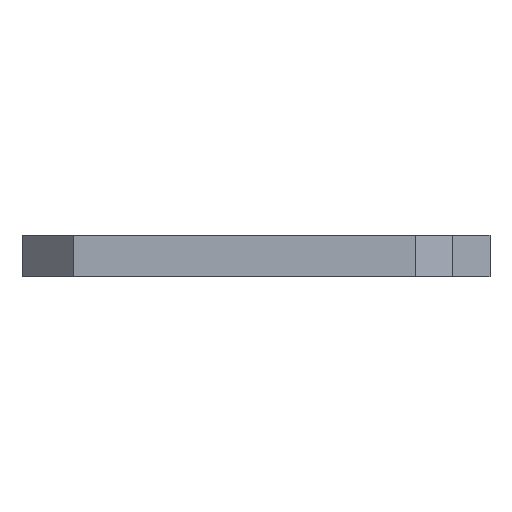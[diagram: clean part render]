
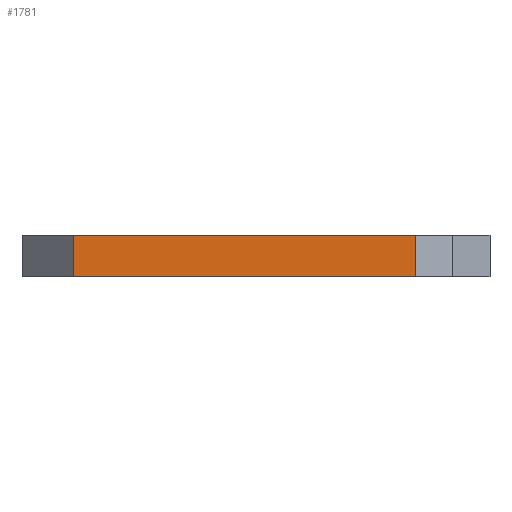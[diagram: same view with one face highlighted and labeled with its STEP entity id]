
A CAD part, left-side view. The second image highlights one B-rep face of the part: STEP entity #1781.
In plain terms, the highlighted planar face has unit normal (-1, 0, 0).
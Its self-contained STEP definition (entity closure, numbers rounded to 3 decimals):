
#44 = PLANE('',#45);
#45 = AXIS2_PLACEMENT_3D('',#46,#47,#48);
#46 = CARTESIAN_POINT('',(0.,121.255,-4.25));
#47 = DIRECTION('',(0.,0.,1.));
#48 = DIRECTION('',(1.,0.,-0.));
#100 = PLANE('',#101);
#101 = AXIS2_PLACEMENT_3D('',#102,#103,#104);
#102 = CARTESIAN_POINT('',(0.,121.255,0.25));
#103 = DIRECTION('',(0.,0.,1.));
#104 = DIRECTION('',(1.,0.,-0.));
#379 = VERTEX_POINT('',#380);
#380 = CARTESIAN_POINT('',(-16.2,140.7,-4.25));
#394 = PLANE('',#395);
#395 = AXIS2_PLACEMENT_3D('',#396,#397,#398);
#396 = CARTESIAN_POINT('',(-10.2,146.2,-4.25));
#397 = DIRECTION('',(0.676,-0.737,0.));
#398 = DIRECTION('',(-0.737,-0.676,0.));
#406 = EDGE_CURVE('',#379,#407,#409,.T.);
#407 = VERTEX_POINT('',#408);
#408 = CARTESIAN_POINT('',(-16.2,104.,-4.25));
#409 = SURFACE_CURVE('',#410,(#414,#421),.PCURVE_S1.);
#410 = LINE('',#411,#412);
#411 = CARTESIAN_POINT('',(-16.2,140.7,-4.25));
#412 = VECTOR('',#413,1.);
#413 = DIRECTION('',(0.,-1.,0.));
#414 = PCURVE('',#44,#415);
#415 = DEFINITIONAL_REPRESENTATION('',(#416),#420);
#416 = LINE('',#417,#418);
#417 = CARTESIAN_POINT('',(-16.2,19.445));
#418 = VECTOR('',#419,1.);
#419 = DIRECTION('',(0.,-1.));
#420 = ( GEOMETRIC_REPRESENTATION_CONTEXT(2) 
PARAMETRIC_REPRESENTATION_CONTEXT() REPRESENTATION_CONTEXT('2D SPACE',''
  ) );
#421 = PCURVE('',#422,#427);
#422 = PLANE('',#423);
#423 = AXIS2_PLACEMENT_3D('',#424,#425,#426);
#424 = CARTESIAN_POINT('',(-16.2,140.7,-4.25));
#425 = DIRECTION('',(1.,0.,-0.));
#426 = DIRECTION('',(0.,-1.,0.));
#427 = DEFINITIONAL_REPRESENTATION('',(#428),#432);
#428 = LINE('',#429,#430);
#429 = CARTESIAN_POINT('',(0.,0.));
#430 = VECTOR('',#431,1.);
#431 = DIRECTION('',(1.,0.));
#432 = ( GEOMETRIC_REPRESENTATION_CONTEXT(2) 
PARAMETRIC_REPRESENTATION_CONTEXT() REPRESENTATION_CONTEXT('2D SPACE',''
  ) );
#450 = PLANE('',#451);
#451 = AXIS2_PLACEMENT_3D('',#452,#453,#454);
#452 = CARTESIAN_POINT('',(-16.2,104.,-4.25));
#453 = DIRECTION('',(0.894,0.447,-0.));
#454 = DIRECTION('',(0.447,-0.894,0.));
#1418 = VERTEX_POINT('',#1419);
#1419 = CARTESIAN_POINT('',(-16.2,140.7,0.25));
#1440 = EDGE_CURVE('',#1418,#1441,#1443,.T.);
#1441 = VERTEX_POINT('',#1442);
#1442 = CARTESIAN_POINT('',(-16.2,104.,0.25));
#1443 = SURFACE_CURVE('',#1444,(#1448,#1455),.PCURVE_S1.);
#1444 = LINE('',#1445,#1446);
#1445 = CARTESIAN_POINT('',(-16.2,140.7,0.25));
#1446 = VECTOR('',#1447,1.);
#1447 = DIRECTION('',(0.,-1.,0.));
#1448 = PCURVE('',#100,#1449);
#1449 = DEFINITIONAL_REPRESENTATION('',(#1450),#1454);
#1450 = LINE('',#1451,#1452);
#1451 = CARTESIAN_POINT('',(-16.2,19.445));
#1452 = VECTOR('',#1453,1.);
#1453 = DIRECTION('',(0.,-1.));
#1454 = ( GEOMETRIC_REPRESENTATION_CONTEXT(2) 
PARAMETRIC_REPRESENTATION_CONTEXT() REPRESENTATION_CONTEXT('2D SPACE',''
  ) );
#1455 = PCURVE('',#422,#1456);
#1456 = DEFINITIONAL_REPRESENTATION('',(#1457),#1461);
#1457 = LINE('',#1458,#1459);
#1458 = CARTESIAN_POINT('',(0.,-4.5));
#1459 = VECTOR('',#1460,1.);
#1460 = DIRECTION('',(1.,0.));
#1461 = ( GEOMETRIC_REPRESENTATION_CONTEXT(2) 
PARAMETRIC_REPRESENTATION_CONTEXT() REPRESENTATION_CONTEXT('2D SPACE',''
  ) );
#1731 = EDGE_CURVE('',#407,#1441,#1732,.T.);
#1732 = SURFACE_CURVE('',#1733,(#1737,#1744),.PCURVE_S1.);
#1733 = LINE('',#1734,#1735);
#1734 = CARTESIAN_POINT('',(-16.2,104.,-4.25));
#1735 = VECTOR('',#1736,1.);
#1736 = DIRECTION('',(0.,0.,1.));
#1737 = PCURVE('',#450,#1738);
#1738 = DEFINITIONAL_REPRESENTATION('',(#1739),#1743);
#1739 = LINE('',#1740,#1741);
#1740 = CARTESIAN_POINT('',(0.,0.));
#1741 = VECTOR('',#1742,1.);
#1742 = DIRECTION('',(0.,-1.));
#1743 = ( GEOMETRIC_REPRESENTATION_CONTEXT(2) 
PARAMETRIC_REPRESENTATION_CONTEXT() REPRESENTATION_CONTEXT('2D SPACE',''
  ) );
#1744 = PCURVE('',#422,#1745);
#1745 = DEFINITIONAL_REPRESENTATION('',(#1746),#1750);
#1746 = LINE('',#1747,#1748);
#1747 = CARTESIAN_POINT('',(36.7,0.));
#1748 = VECTOR('',#1749,1.);
#1749 = DIRECTION('',(0.,-1.));
#1750 = ( GEOMETRIC_REPRESENTATION_CONTEXT(2) 
PARAMETRIC_REPRESENTATION_CONTEXT() REPRESENTATION_CONTEXT('2D SPACE',''
  ) );
#1781 = ADVANCED_FACE('',(#1782),#422,.F.);
#1782 = FACE_BOUND('',#1783,.F.);
#1783 = EDGE_LOOP('',(#1784,#1805,#1806,#1807));
#1784 = ORIENTED_EDGE('',*,*,#1785,.T.);
#1785 = EDGE_CURVE('',#379,#1418,#1786,.T.);
#1786 = SURFACE_CURVE('',#1787,(#1791,#1798),.PCURVE_S1.);
#1787 = LINE('',#1788,#1789);
#1788 = CARTESIAN_POINT('',(-16.2,140.7,-4.25));
#1789 = VECTOR('',#1790,1.);
#1790 = DIRECTION('',(0.,0.,1.));
#1791 = PCURVE('',#422,#1792);
#1792 = DEFINITIONAL_REPRESENTATION('',(#1793),#1797);
#1793 = LINE('',#1794,#1795);
#1794 = CARTESIAN_POINT('',(0.,0.));
#1795 = VECTOR('',#1796,1.);
#1796 = DIRECTION('',(0.,-1.));
#1797 = ( GEOMETRIC_REPRESENTATION_CONTEXT(2) 
PARAMETRIC_REPRESENTATION_CONTEXT() REPRESENTATION_CONTEXT('2D SPACE',''
  ) );
#1798 = PCURVE('',#394,#1799);
#1799 = DEFINITIONAL_REPRESENTATION('',(#1800),#1804);
#1800 = LINE('',#1801,#1802);
#1801 = CARTESIAN_POINT('',(8.139,0.));
#1802 = VECTOR('',#1803,1.);
#1803 = DIRECTION('',(0.,-1.));
#1804 = ( GEOMETRIC_REPRESENTATION_CONTEXT(2) 
PARAMETRIC_REPRESENTATION_CONTEXT() REPRESENTATION_CONTEXT('2D SPACE',''
  ) );
#1805 = ORIENTED_EDGE('',*,*,#1440,.T.);
#1806 = ORIENTED_EDGE('',*,*,#1731,.F.);
#1807 = ORIENTED_EDGE('',*,*,#406,.F.);
